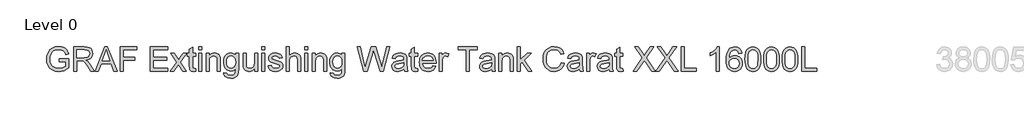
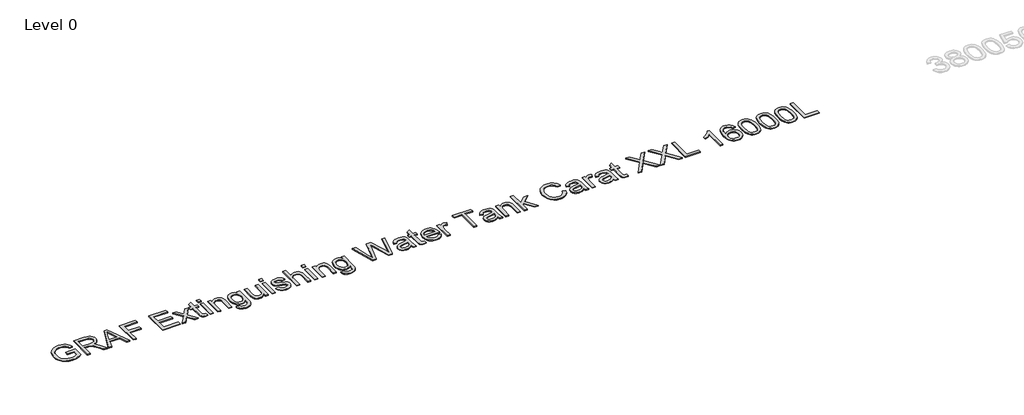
# One storey, part 16 of 37: 1 proxy.
"""IFC4 building model written with IfcOpenShell, lengths in millimetres."""

import ifcopenshell
import ifcopenshell.guid

model = None  # the IFC model being written
_history = None  # IfcOwnerHistory: only IFC2X3 demands one
_inside = {}  # id of a spatial element -> (the spatial element, [elements in it])
_under = {}  # id of a project, library or spatial element -> (it, [spatial elements below it])
_declared = {}  # id of a project -> (the project, [libraries it declares])
_typed = {}  # id of a type object -> (the type object, [elements of that type])
_made_of = {}  # id of a material, layer set ... -> (it, [elements and type objects made of it])


def new_model(schema):
    """Start an empty IFC model of exactly this schema.

    Asked for "IFC4X3", IfcOpenShell would pick the latest addendum, in which some entities
    have other attributes; the version numbers below select the first issue.
    IFC2X3 requires an IfcOwnerHistory on every rooted entity: one is made here for all.
    """
    global model, _history
    if schema == "IFC4X3":
        model = ifcopenshell.file(schema_version=(4, 3, 0, 0))
    else:
        model = ifcopenshell.file(schema=schema)
    _inside.clear()
    _under.clear()
    _declared.clear()
    _typed.clear()
    _made_of.clear()
    _history = None
    if model.schema == "IFC2X3":
        org = make("IfcOrganization", Name="unknown")
        user = make(
            "IfcPersonAndOrganization",
            ThePerson=make("IfcPerson", FamilyName="unknown"),
            TheOrganization=org,
        )
        app = make(
            "IfcApplication",
            ApplicationDeveloper=org,
            Version="unknown",
            ApplicationFullName="unknown",
            ApplicationIdentifier="unknown",
        )
        _history = make(
            "IfcOwnerHistory",
            OwningUser=user,
            OwningApplication=app,
            ChangeAction="ADDED",
            CreationDate=0,
        )
    return model


def make(cls, **values):
    """One entity of the class cls with the attributes given. An attribute that is None is left unset."""
    return model.create_entity(
        cls, **{name: value for name, value in values.items() if value is not None}
    )


def rooted(cls, **values):
    """An entity with a GlobalId (a new one), such as an element, a storey or a relation."""
    return make(cls, GlobalId=ifcopenshell.guid.new(), OwnerHistory=_history, **values)


def si_unit(unit_type, name, prefix=None):
    """IfcSIUnit, for example si_unit("LENGTHUNIT", "METRE", prefix="MILLI")."""
    return make("IfcSIUnit", UnitType=unit_type, Prefix=prefix, Name=name)


def assignment(units):
    """IfcUnitAssignment: the units of a project."""
    return None if units is None else make("IfcUnitAssignment", Units=units)


def point(xyz):
    """IfcCartesianPoint."""
    return None if xyz is None else make("IfcCartesianPoint", Coordinates=xyz)


def direction(xyz):
    """IfcDirection."""
    return None if xyz is None else make("IfcDirection", DirectionRatios=xyz)


def frame(location, z_axis=None, x_axis=None):
    """IfcAxis2Placement3D, a coordinate frame: its origin and axes. An axis left out is left unset."""
    return make(
        "IfcAxis2Placement3D",
        Location=point(location),
        Axis=direction(z_axis),
        RefDirection=direction(x_axis),
    )


def origin():
    """The frame at (0, 0, 0) with its axes left unset."""
    return frame((0.0, 0.0, 0.0))


def origin_with_axes():
    """The frame at (0, 0, 0) with the z axis (0, 0, 1) and the x axis (1, 0, 0) written out."""
    return frame((0.0, 0.0, 0.0), z_axis=(0.0, 0.0, 1.0), x_axis=(1.0, 0.0, 0.0))


def place(relative_to, where):
    """IfcLocalPlacement: puts the frame where relative to a parent placement (None: the world)."""
    return make(
        "IfcLocalPlacement", PlacementRelTo=relative_to, RelativePlacement=where
    )


def context(
    kind, dimensions, precision=None, world=None, true_north=None, identifier=None
):
    """IfcGeometricRepresentationContext, for example the 3D "Model" context."""
    return make(
        "IfcGeometricRepresentationContext",
        ContextIdentifier=identifier,
        ContextType=kind,
        CoordinateSpaceDimension=dimensions,
        Precision=precision,
        WorldCoordinateSystem=world,
        TrueNorth=true_north,
    )


def project(units=None, contexts=None):
    """IfcProject with its units and contexts."""
    return rooted(
        "IfcProject",
        Name="project",
        RepresentationContexts=contexts,
        UnitsInContext=assignment(units),
    )


def spatial(cls, under=None, at=None, **own):
    """A site, building, storey or space (cls), placed at a placement, below another one or the project."""
    s = rooted(cls, ObjectPlacement=at, **own)
    if under is not None:
        _under.setdefault(under.id(), (under, []))[1].append(s)
    return s


def polyline(points):
    """IfcPolyline through the points."""
    return make("IfcPolyline", Points=[point(p) for p in points])


def outline(outer, holes=None, kind="AREA"):
    """IfcArbitraryClosedProfileDef: a profile drawn as a closed curve; with holes, ...WithVoids."""
    if holes is None:
        return make("IfcArbitraryClosedProfileDef", ProfileType=kind, OuterCurve=outer)
    return make(
        "IfcArbitraryProfileDefWithVoids",
        ProfileType=kind,
        OuterCurve=outer,
        InnerCurves=holes,
    )


def extrude(swept, where, along, depth):
    """IfcExtrudedAreaSolid: the profile swept, set in the frame where, extruded along a direction by depth."""
    return make(
        "IfcExtrudedAreaSolid",
        SweptArea=swept,
        Position=where,
        ExtrudedDirection=direction(along),
        Depth=depth,
    )


def shape(context_of_items, identifier, shape_type, items):
    """IfcShapeRepresentation: the items that make up one representation, for example the "Body"."""
    return make(
        "IfcShapeRepresentation",
        ContextOfItems=context_of_items,
        RepresentationIdentifier=identifier,
        RepresentationType=shape_type,
        Items=items,
    )


def made_of(thing, what):
    """Note that an element or type object is made of a material, layer set ...; save() writes the relation."""
    if what is not None:
        _made_of.setdefault(what.id(), (what, []))[1].append(thing)
    return thing


def element(
    cls,
    number,
    at=None,
    inside=None,
    cuts=None,
    type_object=None,
    material=None,
    context=None,
    identifier="Body",
    shape_type=None,
    held_by="IfcProductDefinitionShape",
    body=None,
    shapes=None,
    **own,
):
    """One element of the class cls, such as IfcWall. Its Tag is "e" and its number.

    at: its placement. inside: the storey or other place that contains it. cuts: it is an
    opening in that element (IfcRelVoidsElement). A single representation is given by context,
    identifier, shape_type and body (its items); several are given by shapes. held_by: the class
    of the entity that holds the representations. save() writes the other relations.
    """
    e = rooted(cls, Tag="e%d" % number, ObjectPlacement=at, **own)
    if body is not None:
        shapes = [shape(context, identifier, shape_type, body)]
    if shapes is not None:
        e.Representation = make(held_by, Representations=shapes)
    if inside is not None:
        _inside.setdefault(inside.id(), (inside, []))[1].append(e)
    if cuts is not None:
        rooted(
            "IfcRelVoidsElement", RelatingBuildingElement=cuts, RelatedOpeningElement=e
        )
    if type_object is not None:
        _typed.setdefault(type_object.id(), (type_object, []))[1].append(e)
    return made_of(e, material)


def aggregate(whole, parts):
    """IfcRelAggregates: a whole, such as a stair, and the parts it consists of."""
    return rooted("IfcRelAggregates", RelatingObject=whole, RelatedObjects=parts)


def save(model, path):
    """Write the relations noted so far, then the file.

    IfcRelAggregates (storeys below a building ...), IfcRelContainedInSpatialStructure (elements
    in a storey), IfcRelDefinesByType, IfcRelAssociatesMaterial and IfcRelDeclares: one each for
    every whole, place, type object, material and project.
    """
    for whole, parts in _under.values():
        aggregate(whole, parts)
    for where, things in _inside.values():
        rooted(
            "IfcRelContainedInSpatialStructure",
            RelatedElements=things,
            RelatingStructure=where,
        )
    for kind, things in _typed.values():
        rooted("IfcRelDefinesByType", RelatedObjects=things, RelatingType=kind)
    for what, things in _made_of.values():
        rooted("IfcRelAssociatesMaterial", RelatedObjects=things, RelatingMaterial=what)
    for by, libraries in _declared.values():
        rooted("IfcRelDeclares", RelatingContext=by, RelatedDefinitions=libraries)
    model.write(path)


model = new_model("IFC4")

# Units and contexts
model_context = context("Model", 3, world=origin())
ifc_project = project(units=[si_unit("LENGTHUNIT", "METRE", prefix="MILLI")], contexts=[model_context])

# Site, building, storey
site = spatial("IfcSite", under=ifc_project)
building = spatial("IfcBuilding", under=site)
storey = spatial("IfcBuildingStorey", under=building, Name="Level 0", Elevation=0.0)

# Proxy
placement = place(None, origin())
element("IfcBuildingElementProxy", 1, Name="300mm Arial", ObjectType="300mm Arial", at=placement, inside=storey, context=model_context, shape_type="SweptSolid", body=[
    extrude(outline(polyline([(-17240.9940387, -1583.2545597), (-17240.9940387, -1545.5834434), (-17118.5629107, -1545.5834434), (-17118.5629107, -1658.2289103), (-17148.3153671, -1678.9222726), (-17179.0059225, -1693.7663111), (-17210.5610007, -1702.7058436), (-17242.9070251, -1705.6856877), (-17285.1674693, -1700.949207), (-17323.3628175, -1686.739765), (-17355.0926395, -1663.5540022), (-17377.9565055, -1631.8885595), (-17391.7796715, -1593.9047435), (-17396.3873935, -1551.7638609), (-17391.7980656, -1509.3194757), (-17378.0300819, -1469.8365406), (-17355.6536596, -1436.717964), (-17325.2390156, -1413.3666543), (-17288.1932987, -1399.5158972), (-17245.9236575, -1394.8989782), (-17214.8928112, -1397.5753197), (-17186.9889618, -1405.6043443), (-17163.4904994, -1418.4066377), (-17145.6758138, -1435.4027859), (-17132.4964413, -1457.4113262), (-17122.9039183, -1485.2507962), (-17157.6319786, -1495.0364573), (-17165.3850917, -1475.1800266), (-17174.8120678, -1460.1980323), (-17187.2832674, -1448.9040551), (-17204.169051, -1440.1116754), (-17224.3013932, -1434.4554897), (-17246.5122687, -1432.5700945), (-17272.5123287, -1434.6026425), (-17294.7415982, -1440.7002866), (-17313.1173039, -1450.0996716), (-17327.5566722, -1462.0374423), (-17346.9440533, -1491.0633317), (-17355.7732212, -1519.50061), (-17358.7162772, -1550.2187566), (-17355.175413, -1586.2436009), (-17344.5528204, -1615.8856927), (-17327.1703961, -1638.9334997), (-17303.3500369, -1655.1754898), (-17275.4737787, -1664.804801), (-17245.9236575, -1668.0145714), (-17219.831627, -1665.5957473), (-17194.3833899, -1658.3392749), (-17172.2828791, -1648.3420817), (-17156.234027, -1637.701095), (-17156.234027, -1583.2545597), (-17240.9940387, -1583.2545597)])), origin_with_axes(), (0.0, 0.0, 1.0), 10.0),
    extrude(outline(polyline([(-17057.3473467, -1700.9767982), (-17057.3473467, -1399.6078677), (-16927.4850024, -1399.6078677), (-16892.5821982, -1401.6404158), (-16867.1891434, -1407.7380598), (-16848.6294968, -1418.9952489), (-16834.2269167, -1436.5064318), (-16824.9838815, -1458.2206666), (-16821.9028698, -1482.087011), (-16827.0072325, -1511.7750881), (-16842.3203206, -1536.3863935), (-16853.9200997, -1546.4157764), (-16868.3019865, -1554.4310054), (-16905.4120827, -1564.4190016), (-16884.0013506, -1580.532233), (-16853.467145, -1619.3069952), (-16803.2144645, -1700.9767982), (-16846.9924219, -1700.9767982), (-16886.2086426, -1638.5104354), (-16914.5355562, -1597.1604991), (-16934.4379722, -1577.6259652), (-16952.3538253, -1570.4522663), (-16974.2060158, -1569.1278911), (-17019.6762304, -1569.1278911), (-17019.6762304, -1700.9767982), (-17057.3473467, -1700.9767982)]), holes=[polyline([(-17019.6762304, -1531.4567748), (-16935.3576771, -1531.4567748), (-16911.1418448, -1530.1232026), (-16892.3522719, -1526.1224859), (-16878.2072092, -1519.1879103), (-16867.9249074, -1509.0527613), (-16861.6617165, -1496.7930938), (-16859.5739861, -1483.4849626), (-16863.5563087, -1465.109257), (-16875.5032765, -1450.3020067), (-16896.058683, -1440.5347397), (-16925.8663217, -1437.278984), (-17019.6762304, -1437.278984), (-17019.6762304, -1531.4567748)])]), origin_with_axes(), (0.0, 0.0, 1.0), 10.0),
    extrude(outline(polyline([(-16791.0743586, -1700.9767982), (-16670.7769462, -1399.6078677), (-16638.6976362, -1399.6078677), (-16518.4002238, -1700.9767982), (-16558.2050557, -1700.9767982), (-16592.7123868, -1606.7990074), (-16716.835772, -1606.7990074), (-16751.2695268, -1700.9767982), (-16791.0743586, -1700.9767982)]), holes=[polyline([(-16703.003409, -1569.1278911), (-16606.4711735, -1569.1278911), (-16633.6208647, -1495.0364573), (-16654.7372912, -1437.278984), (-16673.499273, -1488.5617342), (-16703.003409, -1569.1278911)])]), origin_with_axes(), (0.0, 0.0, 1.0), 10.0),
    extrude(outline(polyline([(-16478.1539335, -1700.9767982), (-16478.1539335, -1399.6078677), (-16275.6716834, -1399.6078677), (-16275.6716834, -1437.278984), (-16440.4828172, -1437.278984), (-16440.4828172, -1526.7478853), (-16299.2161311, -1526.7478853), (-16299.2161311, -1564.4190016), (-16440.4828172, -1564.4190016), (-16440.4828172, -1700.9767982), (-16478.1539335, -1700.9767982)])), origin_with_axes(), (0.0, 0.0, 1.0), 10.0),
    extrude(outline(polyline([(-16106.15166, -1700.9767982), (-16106.15166, -1399.6078677), (-15889.5427413, -1399.6078677), (-15889.5427413, -1437.278984), (-16068.4805437, -1437.278984), (-16068.4805437, -1526.7478853), (-15898.9605203, -1526.7478853), (-15898.9605203, -1564.4190016), (-16068.4805437, -1564.4190016), (-16068.4805437, -1663.3056819), (-15884.8338517, -1663.3056819), (-15884.8338517, -1700.9767982), (-16106.15166, -1700.9767982)])), origin_with_axes(), (0.0, 0.0, 1.0), 10.0),
    extrude(outline(polyline([(-15856.5805145, -1700.9767982), (-15776.0879339, -1589.7292828), (-15851.8716249, -1479.6589899), (-15806.5485631, -1479.6589899), (-15769.9810928, -1532.6339972), (-15752.9113682, -1557.6499729), (-15738.122512, -1537.1957339), (-15696.4782702, -1479.6589899), (-15651.1552084, -1479.6589899), (-15730.7648721, -1589.7292828), (-15654.0982643, -1700.9767982), (-15699.4213261, -1700.9767982), (-15745.5537283, -1634.0958515), (-15754.0150142, -1621.8821692), (-15811.2574527, -1700.9767982), (-15856.5805145, -1700.9767982)])), origin_with_axes(), (0.0, 0.0, 1.0), 10.0),
    extrude(outline(polyline([(-15541.0849154, -1669.5596758), (-15536.3760259, -1702.0804442), (-15564.5557867, -1705.6856877), (-15582.6371868, -1704.1221892), (-15596.1200619, -1699.4316938), (-15605.6482056, -1692.2028126), (-15611.8654113, -1683.0241568), (-15615.2867139, -1667.2604133), (-15616.427148, -1640.276269), (-15616.427148, -1517.3301062), (-15644.6804853, -1517.3301062), (-15644.6804853, -1479.6589899), (-15616.427148, -1479.6589899), (-15616.427148, -1425.8746422), (-15578.7560317, -1403.7281461), (-15578.7560317, -1479.6589899), (-15541.0849154, -1479.6589899), (-15541.0849154, -1517.3301062), (-15578.7560317, -1517.3301062), (-15578.7560317, -1639.172623), (-15576.769469, -1658.5967923), (-15570.331534, -1665.4761856), (-15557.4924524, -1668.0145714), (-15541.0849154, -1669.5596758)])), origin_with_axes(), (0.0, 0.0, 1.0), 10.0),
    extrude(outline(polyline([(-15503.4137991, -1437.278984), (-15503.4137991, -1399.6078677), (-15465.7426828, -1399.6078677), (-15465.7426828, -1437.278984), (-15503.4137991, -1437.278984)])), origin_with_axes(), (0.0, 0.0, 1.0), 10.0),
    extrude(outline(polyline([(-15503.4137991, -1700.9767982), (-15503.4137991, -1479.6589899), (-15465.7426828, -1479.6589899), (-15465.7426828, -1700.9767982), (-15503.4137991, -1700.9767982)])), origin_with_axes(), (0.0, 0.0, 1.0), 10.0),
    extrude(outline(polyline([(-15409.2360084, -1700.9767982), (-15409.2360084, -1479.6589899), (-15371.564892, -1479.6589899), (-15371.564892, -1510.5610775), (-15358.4774901, -1494.981275), (-15342.7597318, -1483.8528446), (-15324.4116173, -1477.1757864), (-15303.4331465, -1474.9501003), (-15284.8643028, -1476.7435251), (-15267.8589576, -1482.1237992), (-15253.6771067, -1490.4195382), (-15243.5787459, -1500.9593574), (-15232.2847687, -1528.6608716), (-15230.2982059, -1565.0811892), (-15230.2982059, -1700.9767982), (-15267.9693222, -1700.9767982), (-15267.9693222, -1570.1579607), (-15272.3103297, -1536.8278519), (-15278.3160033, -1526.9042351), (-15287.6510089, -1519.2063044), (-15299.6163708, -1514.2674886), (-15313.5131132, -1512.6212166), (-15335.5768359, -1516.3184307), (-15354.3848029, -1527.4100729), (-15361.9010919, -1536.4645685), (-15367.2698698, -1548.8391991), (-15371.564892, -1583.5488653), (-15371.564892, -1700.9767982), (-15409.2360084, -1700.9767982)])), origin_with_axes(), (0.0, 0.0, 1.0), 10.0),
    extrude(outline(polyline([(-15187.9182001, -1719.8123563), (-15150.2470837, -1724.5212459), (-15146.0900172, -1736.2934697), (-15138.0334015, -1744.3868736), (-15122.1960816, -1750.6776557), (-15101.4659312, -1752.7745831), (-15079.3562233, -1750.4017442), (-15062.9118981, -1743.2832276), (-15051.5075562, -1731.8788858), (-15044.5177983, -1716.6485712), (-15041.9426244, -1672.7234609), (-15054.4782034, -1685.084296), (-15068.4669162, -1693.9134639), (-15083.908763, -1699.2109646), (-15100.8037436, -1700.9767982), (-15121.4580184, -1698.9212575), (-15139.6428852, -1692.7546356), (-15155.3583442, -1682.4769323), (-15168.6043953, -1668.0881478), (-15179.1143241, -1650.8252852), (-15186.621416, -1631.9253477), (-15191.1256712, -1611.3883353), (-15192.6270896, -1589.214248), (-15189.932354, -1558.7996041), (-15181.8481471, -1530.8313754), (-15168.6595776, -1507.1305779), (-15150.6517539, -1489.5182274), (-15128.4408785, -1478.5921321), (-15102.6431536, -1474.9501003), (-15085.0262045, -1477.0102395), (-15069.0371333, -1483.190657), (-15054.6759399, -1493.4913529), (-15041.9426244, -1507.9123271), (-15041.9426244, -1479.6589899), (-15004.2715081, -1479.6589899), (-15004.2715081, -1670.7368982), (-15006.846682, -1714.8551464), (-15014.5722039, -1743.908627), (-15027.8803351, -1763.1764465), (-15047.2033369, -1777.9377116), (-15072.118145, -1787.3187024), (-15102.2016952, -1790.4456994), (-15137.2516523, -1786.0403125), (-15164.851999, -1772.8241518), (-15175.2469646, -1762.9028343), (-15182.55632, -1750.7604292), (-15186.7800651, -1736.3969365), (-15187.9182001, -1719.8123563)]), holes=[polyline([(-15154.9559733, -1586.6390741), (-15150.9368625, -1621.1923905), (-15138.8795301, -1644.9483703), (-15120.7521448, -1658.716354), (-15098.5228752, -1663.3056819), (-15076.4591526, -1658.7439451), (-15058.2397968, -1645.0587349), (-15046.0169175, -1621.6062577), (-15041.9426244, -1587.7427201), (-15046.1364791, -1555.0839959), (-15058.7180433, -1531.5671394), (-15077.2041136, -1517.3576973), (-15099.1114864, -1512.6212166), (-15120.6233861, -1517.2841209), (-15138.6588009, -1531.2728338), (-15150.8816802, -1554.4402024), (-15154.9559733, -1586.6390741)])]), origin_with_axes(), (0.0, 0.0, 1.0), 10.0),
    extrude(outline(polyline([(-14806.4981475, -1700.9767982), (-14806.4981475, -1662.9377999), (-14820.1281754, -1681.6400008), (-14836.0022835, -1694.9987158), (-14854.1204717, -1703.0139447), (-14874.4827402, -1705.6856877), (-14892.8308547, -1703.8094895), (-14909.9097763, -1698.180895), (-14924.23878, -1689.7196091), (-14934.3371408, -1679.3453369), (-14945.5575416, -1651.6070344), (-14947.7648336, -1616.5846685), (-14947.7648336, -1479.6589899), (-14910.0937173, -1479.6589899), (-14910.0937173, -1598.8527563), (-14907.8128489, -1637.2596366), (-14902.3222101, -1650.0711271), (-14892.9136281, -1659.8108029), (-14880.2125022, -1665.9636293), (-14864.8442319, -1668.0145714), (-14848.5930448, -1665.917644), (-14833.3903213, -1659.6268619), (-14820.8547423, -1649.7216392), (-14812.6049886, -1636.78139), (-14808.0248577, -1619.0586749), (-14806.4981475, -1594.8060544), (-14806.4981475, -1479.6589899), (-14768.8270311, -1479.6589899), (-14768.8270311, -1700.9767982), (-14806.4981475, -1700.9767982)])), origin_with_axes(), (0.0, 0.0, 1.0), 10.0),
    extrude(outline(polyline([(-14717.0292462, -1437.278984), (-14717.0292462, -1399.6078677), (-14679.3581299, -1399.6078677), (-14679.3581299, -1437.278984), (-14717.0292462, -1437.278984)])), origin_with_axes(), (0.0, 0.0, 1.0), 10.0),
    extrude(outline(polyline([(-14717.0292462, -1700.9767982), (-14717.0292462, -1479.6589899), (-14679.3581299, -1479.6589899), (-14679.3581299, -1700.9767982), (-14717.0292462, -1700.9767982)])), origin_with_axes(), (0.0, 0.0, 1.0), 10.0),
    extrude(outline(polyline([(-14636.9781241, -1635.0523446), (-14599.3070078, -1630.3434551), (-14593.3657135, -1646.4566865), (-14581.8694012, -1658.3024867), (-14564.7444943, -1665.5865502), (-14541.9174165, -1668.0145714), (-14519.3662502, -1665.7888853), (-14503.5105362, -1659.1118271), (-14494.1295453, -1649.4365307), (-14491.0025484, -1638.2161298), (-14494.1479394, -1628.6144097), (-14503.5841126, -1621.293558), (-14542.3588749, -1610.5514038), (-14599.0862786, -1592.1205158), (-14613.4428734, -1582.8590866), (-14623.8447368, -1570.5994191), (-14630.1631101, -1556.1232626), (-14632.2692345, -1540.2123663), (-14630.5769774, -1525.6166481), (-14625.5002058, -1512.1429701), (-14617.4987724, -1500.324761), (-14607.0325297, -1490.6954497), (-14583.0834118, -1479.5486253), (-14550.673008, -1474.9501003), (-14526.153673, -1476.7987074), (-14504.8349114, -1482.3445284), (-14487.6916104, -1491.0449376), (-14475.6986574, -1502.357309), (-14467.7524063, -1517.118574), (-14462.7492112, -1536.1656643), (-14500.4203275, -1540.8745539), (-14505.1752023, -1529.0195566), (-14514.5837843, -1520.0892211), (-14528.738044, -1514.4882178), (-14547.729952, -1512.6212166), (-14569.3614134, -1514.4054443), (-14583.7823876, -1519.7581274), (-14591.8941856, -1527.4836493), (-14594.5981182, -1536.3863935), (-14590.1099579, -1547.349277), (-14576.0568657, -1555.6634101), (-14543.6096737, -1563.6832376), (-14488.3170098, -1581.4151497), (-14473.7120946, -1589.8948297), (-14462.6388466, -1601.5015067), (-14455.6582857, -1616.2719688), (-14453.3314321, -1634.2430043), (-14456.0629559, -1652.821045), (-14464.2575273, -1670.2954398), (-14477.6024467, -1685.2958281), (-14495.7850143, -1696.4518496), (-14517.7475694, -1703.3772282), (-14542.4324513, -1705.6856877), (-14580.4162673, -1701.2343156), (-14608.1361757, -1687.8801991), (-14626.64064, -1665.7704912), (-14636.9781241, -1635.0523446)])), origin_with_axes(), (0.0, 0.0, 1.0), 10.0),
    extrude(outline(polyline([(-14410.9514262, -1700.9767982), (-14410.9514262, -1399.6078677), (-14373.2803099, -1399.6078677), (-14373.2803099, -1510.4139247), (-14359.4433484, -1494.8985015), (-14343.9049326, -1483.8160564), (-14326.6650626, -1477.1665894), (-14307.7237384, -1474.9501003), (-14284.970237, -1477.3689245), (-14265.4173089, -1484.6253968), (-14250.0214474, -1496.1493003), (-14239.7391457, -1511.3704179), (-14233.9450043, -1532.2845093), (-14232.0136238, -1560.8873344), (-14232.0136238, -1700.9767982), (-14269.6847401, -1700.9767982), (-14269.6847401, -1564.7868836), (-14272.6829784, -1541.2056477), (-14281.6776931, -1525.0556281), (-14296.1722437, -1515.7298195), (-14315.6699895, -1512.6212166), (-14331.5900828, -1514.718144), (-14346.5352889, -1521.0089261), (-14358.914518, -1530.8865577), (-14367.1366806, -1543.7440334), (-14371.7444026, -1560.8321521), (-14373.2803099, -1583.4017125), (-14373.2803099, -1700.9767982), (-14410.9514262, -1700.9767982)])), origin_with_axes(), (0.0, 0.0, 1.0), 10.0),
    extrude(outline(polyline([(-14180.2158389, -1437.278984), (-14180.2158389, -1399.6078677), (-14142.5447226, -1399.6078677), (-14142.5447226, -1437.278984), (-14180.2158389, -1437.278984)])), origin_with_axes(), (0.0, 0.0, 1.0), 10.0),
    extrude(outline(polyline([(-14180.2158389, -1700.9767982), (-14180.2158389, -1479.6589899), (-14142.5447226, -1479.6589899), (-14142.5447226, -1700.9767982), (-14180.2158389, -1700.9767982)])), origin_with_axes(), (0.0, 0.0, 1.0), 10.0),
    extrude(outline(polyline([(-14086.0380481, -1700.9767982), (-14086.0380481, -1479.6589899), (-14048.3669318, -1479.6589899), (-14048.3669318, -1510.5610775), (-14035.2795298, -1494.981275), (-14019.5617716, -1483.8528446), (-14001.2136571, -1477.1757864), (-13980.2351863, -1474.9501003), (-13961.6663426, -1476.7435251), (-13944.6609974, -1482.1237992), (-13930.4791464, -1490.4195382), (-13920.3807857, -1500.9593574), (-13909.0868084, -1528.6608716), (-13907.1002456, -1565.0811892), (-13907.1002456, -1700.9767982), (-13944.771362, -1700.9767982), (-13944.771362, -1570.1579607), (-13949.1123695, -1536.8278519), (-13955.1180431, -1526.9042351), (-13964.4530487, -1519.2063044), (-13976.4184106, -1514.2674886), (-13990.315153, -1512.6212166), (-14012.3788756, -1516.3184307), (-14031.1868426, -1527.4100729), (-14038.7031316, -1536.4645685), (-14044.0719095, -1548.8391991), (-14048.3669318, -1583.5488653), (-14048.3669318, -1700.9767982), (-14086.0380481, -1700.9767982)])), origin_with_axes(), (0.0, 0.0, 1.0), 10.0),
    extrude(outline(polyline([(-13864.7202398, -1719.8123563), (-13827.0491235, -1724.5212459), (-13822.8920569, -1736.2934697), (-13814.8354413, -1744.3868736), (-13798.9981214, -1750.6776557), (-13778.2679709, -1752.7745831), (-13756.158263, -1750.4017442), (-13739.7139378, -1743.2832276), (-13728.309596, -1731.8788858), (-13721.3198381, -1716.6485712), (-13718.7446641, -1672.7234609), (-13731.2802431, -1685.084296), (-13745.268956, -1693.9134639), (-13760.7108027, -1699.2109646), (-13777.6057833, -1700.9767982), (-13798.2600581, -1698.9212575), (-13816.444925, -1692.7546356), (-13832.160384, -1682.4769323), (-13845.4064351, -1668.0881478), (-13855.9163638, -1650.8252852), (-13863.4234558, -1631.9253477), (-13867.9277109, -1611.3883353), (-13869.4291293, -1589.214248), (-13866.7343937, -1558.7996041), (-13858.6501869, -1530.8313754), (-13845.4616174, -1507.1305779), (-13827.4537937, -1489.5182274), (-13805.2429182, -1478.5921321), (-13779.4451933, -1474.9501003), (-13761.8282443, -1477.0102395), (-13745.8391731, -1483.190657), (-13731.4779797, -1493.4913529), (-13718.7446641, -1507.9123271), (-13718.7446641, -1479.6589899), (-13681.0735478, -1479.6589899), (-13681.0735478, -1670.7368982), (-13683.6487218, -1714.8551464), (-13691.3742437, -1743.908627), (-13704.6823748, -1763.1764465), (-13724.0053766, -1777.9377116), (-13748.9201848, -1787.3187024), (-13779.0037349, -1790.4456994), (-13814.053692, -1786.0403125), (-13841.6540387, -1772.8241518), (-13852.0490043, -1762.9028343), (-13859.3583597, -1750.7604292), (-13863.5821049, -1736.3969365), (-13864.7202398, -1719.8123563)]), holes=[polyline([(-13831.758013, -1586.6390741), (-13827.7389022, -1621.1923905), (-13815.6815698, -1644.9483703), (-13797.5541845, -1658.716354), (-13775.324915, -1663.3056819), (-13753.2611923, -1658.7439451), (-13735.0418365, -1645.0587349), (-13722.8189572, -1621.6062577), (-13718.7446641, -1587.7427201), (-13722.9385189, -1555.0839959), (-13735.5200831, -1531.5671394), (-13754.0061534, -1517.3576973), (-13775.9135262, -1512.6212166), (-13797.4254258, -1517.2841209), (-13815.4608406, -1531.2728338), (-13827.6837199, -1554.4402024), (-13831.758013, -1586.6390741)])]), origin_with_axes(), (0.0, 0.0, 1.0), 10.0),
    extrude(outline(polyline([(-13448.2042449, -1700.9767982), (-13530.3890826, -1399.6078677), (-13491.5407439, -1399.6078677), (-13443.8632373, -1597.6755339), (-13429.1479575, -1658.8175215), (-13413.4026081, -1604.7388682), (-13353.6585721, -1399.6078677), (-13297.6669324, -1399.6078677), (-13254.256857, -1548.3057702), (-13235.6604221, -1603.4880695), (-13221.9568178, -1658.8175215), (-13207.6829964, -1599.4413675), (-13159.5640314, -1399.6078677), (-13120.7156928, -1399.6078677), (-13202.9741069, -1700.9767982), (-13243.2203971, -1700.9767982), (-13315.472421, -1468.4753772), (-13325.5523877, -1436.0281853), (-13336.8831531, -1475.0972531), (-13402.7340303, -1700.9767982), (-13448.2042449, -1700.9767982)])), origin_with_axes(), (0.0, 0.0, 1.0), 10.0),
    extrude(outline(polyline([(-12946.4867798, -1672.7234609), (-12964.4854065, -1688.1561106), (-12983.017462, -1698.2544714), (-13002.5060107, -1703.8278836), (-13023.3741168, -1705.6856877), (-13054.8556186, -1701.2159215), (-13078.0781695, -1687.8066228), (-13092.3979762, -1667.4443543), (-13097.1712451, -1642.1156789), (-13095.3686233, -1626.4990883), (-13089.960758, -1612.3172373), (-13081.6190337, -1600.1771315), (-13071.0148352, -1590.685776), (-13044.6376962, -1578.324941), (-13012.0433514, -1572.6595583), (-12973.5261065, -1566.6998699), (-12946.707509, -1559.710112), (-12946.4867798, -1551.3224025), (-12949.0803479, -1534.5101954), (-12956.8610521, -1523.5105237), (-12974.2618705, -1515.3435434), (-12998.505294, -1512.6212166), (-13020.9460957, -1514.4330355), (-13036.6178687, -1519.868492), (-13047.3048406, -1529.9208675), (-13054.7912392, -1545.5834434), (-13092.4623555, -1540.8745539), (-13085.9232531, -1520.2731621), (-13076.1651831, -1504.0863544), (-13062.2776378, -1491.7071252), (-13043.3501092, -1482.5284694), (-13020.2011346, -1476.8446926), (-12993.6492516, -1474.9501003), (-12968.1826205, -1476.6239634), (-12947.995096, -1481.6455527), (-12932.7739785, -1489.1963306), (-12922.2065682, -1498.4577598), (-12915.1984162, -1509.9080869), (-12910.6550735, -1524.0255585), (-12908.8156635, -1556.9877853), (-12908.8156635, -1603.8559515), (-12906.9026772, -1669.3021584), (-12899.3978845, -1700.9767982), (-12937.0690008, -1700.9767982), (-12946.4867798, -1672.7234609)]), holes=[polyline([(-12946.4867798, -1597.3812283), (-13007.2608854, -1608.932723), (-13039.6712892, -1615.0395641), (-13054.3497808, -1624.972378), (-13059.5001288, -1639.4669286), (-13056.6950285, -1650.6689353), (-13048.2797279, -1659.8475911), (-13034.4381678, -1665.9728263), (-13015.3542893, -1668.0145714), (-12995.1207796, -1665.7612942), (-12977.2417146, -1659.0014625), (-12962.747164, -1649.0410575), (-12952.6671974, -1637.1860602), (-12948.1974311, -1624.972378), (-12946.707509, -1608.0498062), (-12946.4867798, -1597.3812283)])]), origin_with_axes(), (0.0, 0.0, 1.0), 10.0),
    extrude(outline(polyline([(-12776.9667565, -1669.5596758), (-12772.2578669, -1702.0804442), (-12800.4376278, -1705.6856877), (-12818.5190278, -1704.1221892), (-12832.0019029, -1699.4316938), (-12841.5300466, -1692.2028126), (-12847.7472523, -1683.0241568), (-12851.1685549, -1667.2604133), (-12852.3089891, -1640.276269), (-12852.3089891, -1517.3301062), (-12880.5623263, -1517.3301062), (-12880.5623263, -1479.6589899), (-12852.3089891, -1479.6589899), (-12852.3089891, -1425.8746422), (-12814.6378728, -1403.7281461), (-12814.6378728, -1479.6589899), (-12776.9667565, -1479.6589899), (-12776.9667565, -1517.3301062), (-12814.6378728, -1517.3301062), (-12814.6378728, -1639.172623), (-12812.65131, -1658.5967923), (-12806.2133751, -1665.4761856), (-12793.3742934, -1668.0145714), (-12776.9667565, -1669.5596758)])), origin_with_axes(), (0.0, 0.0, 1.0), 10.0),
    extrude(outline(polyline([(-12584.3437438, -1635.0523446), (-12547.4083915, -1639.7612342), (-12560.7165226, -1667.5915071), (-12581.9525108, -1688.3952339), (-12610.6381094, -1701.3630743), (-12646.2950718, -1705.6856877), (-12669.669374, -1703.8209859), (-12690.4960935, -1698.2268803), (-12708.7752301, -1688.9033709), (-12724.506784, -1675.8504579), (-12737.1573261, -1659.4314246), (-12746.1934276, -1640.0095545), (-12751.6150885, -1617.5848477), (-12753.4223088, -1592.157304), (-12751.5966944, -1565.8675369), (-12746.1198512, -1542.6955698), (-12736.9917792, -1522.6414025), (-12724.2124784, -1505.7050351), (-12708.5223113, -1492.2497512), (-12690.6616404, -1482.638834), (-12670.6304658, -1476.8722838), (-12648.4287873, -1474.9501003), (-12626.9421796, -1476.8676852), (-12607.5111124, -1482.6204399), (-12590.1355859, -1492.2083644), (-12574.8156001, -1505.6314587), (-12562.3099115, -1522.5310379), (-12553.3772768, -1542.548417), (-12548.017696, -1565.6835959), (-12546.2311691, -1591.9365748), (-12546.4518983, -1602.0901179), (-12715.7511925, -1602.0901179), (-12709.2304841, -1630.2882728), (-12694.0829429, -1651.0184232), (-12672.2215554, -1663.7655344), (-12645.5593078, -1668.0145714), (-12625.509739, -1666.0464027), (-12608.6239555, -1660.1418967), (-12594.901957, -1649.9331713), (-12584.3437438, -1635.0523446)]), holes=[polyline([(-12715.7511925, -1564.4190016), (-12583.9022854, -1564.4190016), (-12588.997451, -1544.5165856), (-12598.9854472, -1530.2795524), (-12620.9480023, -1517.0358006), (-12648.5759401, -1512.6212166), (-12673.9689949, -1516.1436868), (-12694.9658597, -1526.7110971), (-12709.5615779, -1543.1830134), (-12715.7511925, -1564.4190016)])]), origin_with_axes(), (0.0, 0.0, 1.0), 10.0),
    extrude(outline(polyline([(-12508.5600528, -1700.9767982), (-12508.5600528, -1479.6589899), (-12475.597826, -1479.6589899), (-12475.597826, -1512.4004875), (-12463.420932, -1493.4177765), (-12452.2005311, -1482.2341638), (-12440.9433421, -1476.7711162), (-12428.6560834, -1474.9501003), (-12409.8941017, -1477.8563681), (-12390.8378143, -1486.5751714), (-12403.4193786, -1520.3467385), (-12416.6631304, -1514.5525971), (-12429.9068822, -1512.6212166), (-12441.1548742, -1514.4790207), (-12451.2072497, -1520.052433), (-12459.3282448, -1528.918389), (-12464.7820954, -1540.6538247), (-12469.3622262, -1561.6966748), (-12470.8889365, -1584.6525113), (-12470.8889365, -1700.9767982), (-12508.5600528, -1700.9767982)])), origin_with_axes(), (0.0, 0.0, 1.0), 10.0),
    extrude(outline(polyline([(-12169.520006, -1700.9767982), (-12169.520006, -1437.278984), (-12268.4066863, -1437.278984), (-12268.4066863, -1399.6078677), (-12032.9622094, -1399.6078677), (-12032.9622094, -1437.278984), (-12131.8488897, -1437.278984), (-12131.8488897, -1700.9767982), (-12169.520006, -1700.9767982)])), origin_with_axes(), (0.0, 0.0, 1.0), 10.0),
    extrude(outline(polyline([(-11854.024407, -1672.7234609), (-11872.0230336, -1688.1561106), (-11890.5550891, -1698.2544714), (-11910.0436378, -1703.8278836), (-11930.911744, -1705.6856877), (-11962.3932457, -1701.2159215), (-11985.6157966, -1687.8066228), (-11999.9356033, -1667.4443543), (-12004.7088722, -1642.1156789), (-12002.9062504, -1626.4990883), (-11997.4983851, -1612.3172373), (-11989.1566608, -1600.1771315), (-11978.5524623, -1590.685776), (-11952.1753233, -1578.324941), (-11919.5809785, -1572.6595583), (-11881.0637336, -1566.6998699), (-11854.2451362, -1559.710112), (-11854.024407, -1551.3224025), (-11856.617975, -1534.5101954), (-11864.3986792, -1523.5105237), (-11881.7994976, -1515.3435434), (-11906.0429211, -1512.6212166), (-11928.4837228, -1514.4330355), (-11944.1554958, -1519.868492), (-11954.8424677, -1529.9208675), (-11962.3288663, -1545.5834434), (-11999.9999826, -1540.8745539), (-11993.4608802, -1520.2731621), (-11983.7028103, -1504.0863544), (-11969.8152649, -1491.7071252), (-11950.8877363, -1482.5284694), (-11927.7387617, -1476.8446926), (-11901.1868787, -1474.9501003), (-11875.7202476, -1476.6239634), (-11855.5327231, -1481.6455527), (-11840.3116056, -1489.1963306), (-11829.7441953, -1498.4577598), (-11822.7360433, -1509.9080869), (-11818.1927006, -1524.0255585), (-11816.3532907, -1556.9877853), (-11816.3532907, -1603.8559515), (-11814.4403043, -1669.3021584), (-11806.9355116, -1700.9767982), (-11844.6066279, -1700.9767982), (-11854.024407, -1672.7234609)]), holes=[polyline([(-11854.024407, -1597.3812283), (-11914.7985126, -1608.932723), (-11947.2089163, -1615.0395641), (-11961.8874079, -1624.972378), (-11967.0377559, -1639.4669286), (-11964.2326557, -1650.6689353), (-11955.817355, -1659.8475911), (-11941.975795, -1665.9728263), (-11922.8919165, -1668.0145714), (-11902.6584067, -1665.7612942), (-11884.7793418, -1659.0014625), (-11870.2847911, -1649.0410575), (-11860.2048245, -1637.1860602), (-11855.7350582, -1624.972378), (-11854.2451362, -1608.0498062), (-11854.024407, -1597.3812283)])]), origin_with_axes(), (0.0, 0.0, 1.0), 10.0),
    extrude(outline(polyline([(-11764.5555057, -1700.9767982), (-11764.5555057, -1479.6589899), (-11726.8843894, -1479.6589899), (-11726.8843894, -1510.5610775), (-11713.7969875, -1494.981275), (-11698.0792292, -1483.8528446), (-11679.7311147, -1477.1757864), (-11658.7526439, -1474.9501003), (-11640.1838002, -1476.7435251), (-11623.178455, -1482.1237992), (-11608.9966041, -1490.4195382), (-11598.8982433, -1500.9593574), (-11587.6042661, -1528.6608716), (-11585.6177033, -1565.0811892), (-11585.6177033, -1700.9767982), (-11623.2888196, -1700.9767982), (-11623.2888196, -1570.1579607), (-11627.6298271, -1536.8278519), (-11633.6355007, -1526.9042351), (-11642.9705063, -1519.2063044), (-11654.9358682, -1514.2674886), (-11668.8326106, -1512.6212166), (-11690.8963333, -1516.3184307), (-11709.7043003, -1527.4100729), (-11717.2205893, -1536.4645685), (-11722.5893671, -1548.8391991), (-11726.8843894, -1583.5488653), (-11726.8843894, -1700.9767982), (-11764.5555057, -1700.9767982)])), origin_with_axes(), (0.0, 0.0, 1.0), 10.0),
    extrude(outline(polyline([(-11533.8199184, -1700.9767982), (-11533.8199184, -1399.6078677), (-11496.1488021, -1399.6078677), (-11496.1488021, -1561.549522), (-11411.683096, -1479.6589899), (-11359.5910054, -1479.6589899), (-11445.0867811, -1562.5795916), (-11354.8821159, -1700.9767982), (-11398.8808025, -1700.9767982), (-11472.0893196, -1588.7727896), (-11496.1488021, -1612.0965081), (-11496.1488021, -1700.9767982), (-11533.8199184, -1700.9767982)])), origin_with_axes(), (0.0, 0.0, 1.0), 10.0),
    extrude(outline(polyline([(-10987.5887319, -1593.8495612), (-10949.9176156, -1603.5616459), (-10957.3718245, -1626.9888312), (-10967.3000399, -1647.4591649), (-10979.7022617, -1664.9726472), (-10994.5784898, -1679.5292779), (-11011.5930321, -1690.9727072), (-11030.4101962, -1699.1465853), (-11051.029982, -1704.0509121), (-11073.4523896, -1705.6856877), (-11117.1475736, -1700.7376749), (-11151.8480428, -1685.8936364), (-11178.445911, -1661.668607), (-11197.8332922, -1628.5776215), (-11209.6698954, -1589.6741005), (-11213.6154298, -1548.0114646), (-11209.1548606, -1504.0679603), (-11195.773153, -1466.1209325), (-11174.1692828, -1435.3751947), (-11145.0422259, -1413.0355606), (-11110.4981065, -1399.4331238), (-11072.6430492, -1394.8989782), (-11031.3390982, -1400.766696), (-11013.370362, -1408.1013433), (-10997.190452, -1418.3698495), (-10983.0660826, -1431.3009016), (-10971.2639684, -1446.6231867), (-10954.6265052, -1484.4414558), (-10992.2976215, -1493.4177765), (-11005.3574323, -1465.9461885), (-11023.1997091, -1447.1014333), (-11046.045181, -1436.2029292), (-11074.1145772, -1432.5700945), (-11106.4697987, -1436.5984023), (-11133.0492728, -1448.6833259), (-11153.2184032, -1467.5556722), (-11166.3425934, -1491.9462485), (-11173.5438834, -1519.5190041), (-11175.9443135, -1547.9378882), (-11173.102425, -1582.7395249), (-11164.5767598, -1612.8322721), (-11150.045421, -1637.0664986), (-11129.1865119, -1654.292573), (-11104.1797332, -1664.5840718), (-11077.2047859, -1668.0145714), (-11045.7600724, -1663.3424701), (-11019.5576773, -1649.3261661), (-10999.774823, -1626.1128122), (-10987.5887319, -1593.8495612)])), origin_with_axes(), (0.0, 0.0, 1.0), 10.0),
    extrude(outline(polyline([(-10761.5620341, -1672.7234609), (-10779.5606607, -1688.1561106), (-10798.0927162, -1698.2544714), (-10817.5812649, -1703.8278836), (-10838.4493711, -1705.6856877), (-10869.9308728, -1701.2159215), (-10893.1534238, -1687.8066228), (-10907.4732304, -1667.4443543), (-10912.2464993, -1642.1156789), (-10910.4438775, -1626.4990883), (-10905.0360122, -1612.3172373), (-10896.694288, -1600.1771315), (-10886.0900895, -1590.685776), (-10859.7129504, -1578.324941), (-10827.1186056, -1572.6595583), (-10788.6013607, -1566.6998699), (-10761.7827633, -1559.710112), (-10761.5620341, -1551.3224025), (-10764.1556022, -1534.5101954), (-10771.9363064, -1523.5105237), (-10789.3371247, -1515.3435434), (-10813.5805482, -1512.6212166), (-10836.0213499, -1514.4330355), (-10851.6931229, -1519.868492), (-10862.3800949, -1529.9208675), (-10869.8664935, -1545.5834434), (-10907.5376098, -1540.8745539), (-10900.9985073, -1520.2731621), (-10891.2404374, -1504.0863544), (-10877.3528921, -1491.7071252), (-10858.4253634, -1482.5284694), (-10835.2763889, -1476.8446926), (-10808.7245059, -1474.9501003), (-10783.2578748, -1476.6239634), (-10763.0703503, -1481.6455527), (-10747.8492327, -1489.1963306), (-10737.2818224, -1498.4577598), (-10730.2736704, -1509.9080869), (-10725.7303278, -1524.0255585), (-10723.8909178, -1556.9877853), (-10723.8909178, -1603.8559515), (-10721.9779314, -1669.3021584), (-10714.4731387, -1700.9767982), (-10752.144255, -1700.9767982), (-10761.5620341, -1672.7234609)]), holes=[polyline([(-10761.5620341, -1597.3812283), (-10822.3361397, -1608.932723), (-10854.7465435, -1615.0395641), (-10869.4250351, -1624.972378), (-10874.575383, -1639.4669286), (-10871.7702828, -1650.6689353), (-10863.3549822, -1659.8475911), (-10849.5134221, -1665.9728263), (-10830.4295436, -1668.0145714), (-10810.1960338, -1665.7612942), (-10792.3169689, -1659.0014625), (-10777.8224183, -1649.0410575), (-10767.7424516, -1637.1860602), (-10763.2726854, -1624.972378), (-10761.7827633, -1608.0498062), (-10761.5620341, -1597.3812283)])]), origin_with_axes(), (0.0, 0.0, 1.0), 10.0),
    extrude(outline(polyline([(-10672.0931329, -1700.9767982), (-10672.0931329, -1479.6589899), (-10639.1309061, -1479.6589899), (-10639.1309061, -1512.4004875), (-10626.9540121, -1493.4177765), (-10615.7336112, -1482.2341638), (-10604.4764221, -1476.7711162), (-10592.1891635, -1474.9501003), (-10573.4271818, -1477.8563681), (-10554.3708944, -1486.5751714), (-10566.9524586, -1520.3467385), (-10580.1962105, -1514.5525971), (-10593.4399623, -1512.6212166), (-10604.6879543, -1514.4790207), (-10614.7403298, -1520.052433), (-10622.8613249, -1528.918389), (-10628.3151754, -1540.6538247), (-10632.8953063, -1561.6966748), (-10634.4220166, -1584.6525113), (-10634.4220166, -1700.9767982), (-10672.0931329, -1700.9767982)])), origin_with_axes(), (0.0, 0.0, 1.0), 10.0),
    extrude(outline(polyline([(-10389.5597606, -1672.7234609), (-10407.5583872, -1688.1561106), (-10426.0904427, -1698.2544714), (-10445.5789914, -1703.8278836), (-10466.4470976, -1705.6856877), (-10497.9285993, -1701.2159215), (-10521.1511502, -1687.8066228), (-10535.4709569, -1667.4443543), (-10540.2442258, -1642.1156789), (-10538.441604, -1626.4990883), (-10533.0337387, -1612.3172373), (-10524.6920144, -1600.1771315), (-10514.0878159, -1590.685776), (-10487.7106769, -1578.324941), (-10455.1163321, -1572.6595583), (-10416.5990872, -1566.6998699), (-10389.7804898, -1559.710112), (-10389.5597606, -1551.3224025), (-10392.1533286, -1534.5101954), (-10399.9340328, -1523.5105237), (-10417.3348512, -1515.3435434), (-10441.5782747, -1512.6212166), (-10464.0190764, -1514.4330355), (-10479.6908494, -1519.868492), (-10490.3778213, -1529.9208675), (-10497.8642199, -1545.5834434), (-10535.5353362, -1540.8745539), (-10528.9962338, -1520.2731621), (-10519.2381639, -1504.0863544), (-10505.3506185, -1491.7071252), (-10486.4230899, -1482.5284694), (-10463.2741153, -1476.8446926), (-10436.7222323, -1474.9501003), (-10411.2556012, -1476.6239634), (-10391.0680767, -1481.6455527), (-10375.8469592, -1489.1963306), (-10365.2795489, -1498.4577598), (-10358.2713969, -1509.9080869), (-10353.7280542, -1524.0255585), (-10351.8886443, -1556.9877853), (-10351.8886443, -1603.8559515), (-10349.9756579, -1669.3021584), (-10342.4708652, -1700.9767982), (-10380.1419815, -1700.9767982), (-10389.5597606, -1672.7234609)]), holes=[polyline([(-10389.5597606, -1597.3812283), (-10450.3338662, -1608.932723), (-10482.7442699, -1615.0395641), (-10497.4227615, -1624.972378), (-10502.5731095, -1639.4669286), (-10499.7680093, -1650.6689353), (-10491.3527086, -1659.8475911), (-10477.5111486, -1665.9728263), (-10458.4272701, -1668.0145714), (-10438.1937603, -1665.7612942), (-10420.3146954, -1659.0014625), (-10405.8201448, -1649.0410575), (-10395.7401781, -1637.1860602), (-10391.2704118, -1624.972378), (-10389.7804898, -1608.0498062), (-10389.5597606, -1597.3812283)])]), origin_with_axes(), (0.0, 0.0, 1.0), 10.0),
    extrude(outline(polyline([(-10220.0397372, -1669.5596758), (-10215.3308476, -1702.0804442), (-10243.5106085, -1705.6856877), (-10261.5920085, -1704.1221892), (-10275.0748837, -1699.4316938), (-10284.6030273, -1692.2028126), (-10290.8202331, -1683.0241568), (-10294.2415356, -1667.2604133), (-10295.3819698, -1640.276269), (-10295.3819698, -1517.3301062), (-10323.635307, -1517.3301062), (-10323.635307, -1479.6589899), (-10295.3819698, -1479.6589899), (-10295.3819698, -1425.8746422), (-10257.7108535, -1403.7281461), (-10257.7108535, -1479.6589899), (-10220.0397372, -1479.6589899), (-10220.0397372, -1517.3301062), (-10257.7108535, -1517.3301062), (-10257.7108535, -1639.172623), (-10255.7242907, -1658.5967923), (-10249.2863558, -1665.4761856), (-10236.4472742, -1668.0145714), (-10220.0397372, -1669.5596758)])), origin_with_axes(), (0.0, 0.0, 1.0), 10.0),
    extrude(outline(polyline([(-10092.8997197, -1700.9767982), (-9976.7225856, -1536.7542755), (-10074.0641615, -1399.6078677), (-10028.8882525, -1399.6078677), (-9974.0738352, -1476.7895103), (-9955.6061591, -1506.8822575), (-9933.9746977, -1476.2744755), (-9879.7488916, -1399.6078677), (-9833.910795, -1399.6078677), (-9931.252371, -1537.1957339), (-9815.0752369, -1700.9767982), (-9860.2511459, -1700.9767982), (-9937.6535177, -1591.789422), (-9953.7667491, -1569.1278911), (-9971.4986612, -1593.996714), (-10047.0616231, -1700.9767982), (-10092.8997197, -1700.9767982)])), origin_with_axes(), (0.0, 0.0, 1.0), 10.0),
    extrude(outline(polyline([(-9810.3663474, -1700.9767982), (-9694.1892133, -1536.7542755), (-9791.5307892, -1399.6078677), (-9746.3548802, -1399.6078677), (-9691.5404629, -1476.7895103), (-9673.0727868, -1506.8822575), (-9651.4413254, -1476.2744755), (-9597.2155194, -1399.6078677), (-9551.3774228, -1399.6078677), (-9648.7189987, -1537.1957339), (-9532.5418646, -1700.9767982), (-9577.7177736, -1700.9767982), (-9655.1201454, -1591.789422), (-9671.2333768, -1569.1278911), (-9688.9652889, -1593.996714), (-9764.5282508, -1700.9767982), (-9810.3663474, -1700.9767982)])), origin_with_axes(), (0.0, 0.0, 1.0), 10.0),
    extrude(outline(polyline([(-9494.8707483, -1700.9767982), (-9494.8707483, -1399.6078677), (-9457.199632, -1399.6078677), (-9457.199632, -1663.3056819), (-9306.5151668, -1663.3056819), (-9306.5151668, -1700.9767982), (-9494.8707483, -1700.9767982)])), origin_with_axes(), (0.0, 0.0, 1.0), 10.0),
    extrude(outline(polyline([(-9019.2729049, -1700.9767982), (-9056.9440212, -1700.9767982), (-9056.9440212, -1466.1209325), (-9092.6285748, -1491.5415783), (-9132.2862538, -1510.5610775), (-9132.2862538, -1474.9501003), (-9102.6993444, -1458.8552631), (-9077.0671664, -1439.7070052), (-9056.8612478, -1419.3447368), (-9043.5531166, -1399.6078677), (-9019.2729049, -1399.6078677), (-9019.2729049, -1700.9767982)])), origin_with_axes(), (0.0, 0.0, 1.0), 10.0),
    extrude(outline(polyline([(-8736.7395326, -1479.6589899), (-8774.4106489, -1484.3678794), (-8780.4807019, -1465.6978682), (-8788.6844704, -1452.950757), (-8805.772589, -1441.1969273), (-8826.4291631, -1437.278984), (-8843.940346, -1439.5598524), (-8860.4214594, -1446.4024575), (-8874.5757192, -1460.8142347), (-8886.1364109, -1480.6522713), (-8893.9447062, -1508.7124704), (-8896.8417769, -1547.7907354), (-8881.731024, -1530.1599908), (-8863.6220328, -1517.7347764), (-8843.5264788, -1510.3679394), (-8822.4560375, -1507.9123271), (-8804.3562433, -1509.5907887), (-8787.6544008, -1514.6261735), (-8772.3505098, -1523.0184815), (-8758.4445703, -1534.7677128), (-8746.8884772, -1549.1748914), (-8738.6341249, -1565.5410417), (-8733.6815135, -1583.8661635), (-8732.0306431, -1604.150257), (-8735.139246, -1631.1252043), (-8744.4650545, -1656.131983), (-8759.2355166, -1677.34038), (-8778.6780801, -1692.9201825), (-8801.9098281, -1702.4943114), (-8828.0478438, -1705.6856877), (-8850.5047404, -1703.5703662), (-8870.7865346, -1697.2244018), (-8888.8932266, -1686.6477945), (-8904.8248162, -1671.8405442), (-8917.8133499, -1652.1772515), (-8927.090874, -1627.0325171), (-8932.6573884, -1596.406341), (-8934.5128932, -1560.2987232), (-8932.4527541, -1519.8179082), (-8926.2723365, -1485.2691903), (-8915.9716407, -1456.6525696), (-8901.5506665, -1433.9680461), (-8885.9202802, -1418.9354681), (-8867.7974934, -1408.1979123), (-8847.1823061, -1401.7553789), (-8824.0747183, -1399.6078677), (-8791.020521, -1404.9237626), (-8764.5514115, -1420.8714471), (-8746.0101589, -1446.2001224), (-8736.7395326, -1479.6589899)]), holes=[polyline([(-8896.8417769, -1603.5616459), (-8894.6620761, -1620.2542914), (-8888.1229736, -1636.1927788), (-8877.9694306, -1649.8963831), (-8864.946408, -1659.8843793), (-8849.2286497, -1665.9820234), (-8830.9908998, -1668.0145714), (-8806.131274, -1663.8023226), (-8786.587543, -1651.165576), (-8773.9232053, -1631.2999483), (-8769.7017594, -1605.4010558), (-8773.868023, -1580.54143), (-8786.3668138, -1561.5863102), (-8806.2416386, -1549.5841601), (-8832.5360042, -1545.5834434), (-8857.3588418, -1549.5841601), (-8878.1165834, -1561.5863102), (-8892.1604785, -1580.0815775), (-8896.8417769, -1603.5616459)])]), origin_with_axes(), (0.0, 0.0, 1.0), 10.0),
    extrude(outline(polyline([(-8699.0684163, -1552.7203541), (-8696.3001043, -1504.4818275), (-8687.9951683, -1466.0105679), (-8674.2363817, -1436.717964), (-8655.1065179, -1416.0154047), (-8630.4676213, -1403.709752), (-8600.181736, -1399.6078677), (-8576.9683821, -1402.0358889), (-8556.1830494, -1409.3199524), (-8538.8006251, -1421.1749497), (-8525.7959966, -1437.3157722), (-8515.9735473, -1457.6044643), (-8508.1376608, -1481.9030701), (-8503.005707, -1512.7591724), (-8501.2950557, -1552.7203541), (-8504.0357766, -1600.6829692), (-8512.2579392, -1639.0622584), (-8525.9339523, -1668.3824534), (-8545.0362249, -1689.1677861), (-8569.7303039, -1701.5562123), (-8600.181736, -1705.6856877), (-8620.9302806, -1703.892263), (-8639.3243803, -1698.5119888), (-8655.3640353, -1689.5448652), (-8669.0492455, -1676.9908921), (-8682.1826327, -1654.2971715), (-8691.5636236, -1626.0208417), (-8697.1922182, -1592.1619025), (-8699.0684163, -1552.7203541)]), holes=[polyline([(-8661.3973, -1552.6467777), (-8656.9827161, -1611.9033701), (-8651.4644862, -1632.1713688), (-8643.7389643, -1646.1991691), (-8624.0204893, -1662.5607208), (-8600.181736, -1668.0145714), (-8576.3429827, -1662.5423267), (-8556.6245078, -1646.1255927), (-8548.8989859, -1632.0747997), (-8543.380756, -1611.8113996), (-8538.966172, -1552.6467777), (-8543.2336032, -1494.7237576), (-8548.5678921, -1474.5224375), (-8556.0358966, -1460.1612441), (-8575.7175833, -1442.9995491), (-8600.6231944, -1437.278984), (-8624.2044303, -1442.3189674), (-8643.1503531, -1457.4389174), (-8651.1333924, -1473.0739022), (-8656.8355633, -1494.1535405), (-8661.3973, -1552.6467777)])]), origin_with_axes(), (0.0, 0.0, 1.0), 10.0),
    extrude(outline(polyline([(-8468.332829, -1552.7203541), (-8465.5645169, -1504.4818275), (-8457.2595809, -1466.0105679), (-8443.5007943, -1436.717964), (-8424.3709305, -1416.0154047), (-8399.7320339, -1403.709752), (-8369.4461486, -1399.6078677), (-8346.2327948, -1402.0358889), (-8325.447462, -1409.3199524), (-8308.0650378, -1421.1749497), (-8295.0604092, -1437.3157722), (-8285.23796, -1457.6044643), (-8277.4020735, -1481.9030701), (-8272.2701196, -1512.7591724), (-8270.5594683, -1552.7203541), (-8273.3001892, -1600.6829692), (-8281.5223518, -1639.0622584), (-8295.198365, -1668.3824534), (-8314.3006376, -1689.1677861), (-8338.9947165, -1701.5562123), (-8369.4461486, -1705.6856877), (-8390.1946932, -1703.892263), (-8408.5887929, -1698.5119888), (-8424.6284479, -1689.5448652), (-8438.3136581, -1676.9908921), (-8451.4470454, -1654.2971715), (-8460.8280363, -1626.0208417), (-8466.4566308, -1592.1619025), (-8468.332829, -1552.7203541)]), holes=[polyline([(-8430.6617126, -1552.6467777), (-8426.2471287, -1611.9033701), (-8420.7288988, -1632.1713688), (-8413.0033769, -1646.1991691), (-8393.2849019, -1662.5607208), (-8369.4461486, -1668.0145714), (-8345.6073954, -1662.5423267), (-8325.8889204, -1646.1255927), (-8318.1633985, -1632.0747997), (-8312.6451686, -1611.8113996), (-8308.2305847, -1552.6467777), (-8312.4980158, -1494.7237576), (-8317.8323047, -1474.5224375), (-8325.3003092, -1460.1612441), (-8344.981996, -1442.9995491), (-8369.887607, -1437.278984), (-8393.4688429, -1442.3189674), (-8412.4147657, -1457.4389174), (-8420.397805, -1473.0739022), (-8426.0999759, -1494.1535405), (-8430.6617126, -1552.6467777)])]), origin_with_axes(), (0.0, 0.0, 1.0), 10.0),
    extrude(outline(polyline([(-8237.5972416, -1552.7203541), (-8234.8289296, -1504.4818275), (-8226.5239935, -1466.0105679), (-8212.7652069, -1436.717964), (-8193.6353432, -1416.0154047), (-8168.9964465, -1403.709752), (-8138.7105613, -1399.6078677), (-8115.4972074, -1402.0358889), (-8094.7118747, -1409.3199524), (-8077.3294504, -1421.1749497), (-8064.3248218, -1437.3157722), (-8054.5023726, -1457.6044643), (-8046.6664861, -1481.9030701), (-8041.5345322, -1512.7591724), (-8039.823881, -1552.7203541), (-8042.5646018, -1600.6829692), (-8050.7867644, -1639.0622584), (-8064.4627776, -1668.3824534), (-8083.5650502, -1689.1677861), (-8108.2591291, -1701.5562123), (-8138.7105613, -1705.6856877), (-8159.4591058, -1703.892263), (-8177.8532056, -1698.5119888), (-8193.8928606, -1689.5448652), (-8207.5780708, -1676.9908921), (-8220.711458, -1654.2971715), (-8230.0924489, -1626.0208417), (-8235.7210434, -1592.1619025), (-8237.5972416, -1552.7203541)]), holes=[polyline([(-8199.9261253, -1552.6467777), (-8195.5115413, -1611.9033701), (-8189.9933114, -1632.1713688), (-8182.2677895, -1646.1991691), (-8162.5493146, -1662.5607208), (-8138.7105613, -1668.0145714), (-8114.871808, -1662.5423267), (-8095.153333, -1646.1255927), (-8087.4278111, -1632.0747997), (-8081.9095812, -1611.8113996), (-8077.4949973, -1552.6467777), (-8081.7624284, -1494.7237576), (-8087.0967174, -1474.5224375), (-8094.5647219, -1460.1612441), (-8114.2464086, -1442.9995491), (-8139.1520197, -1437.278984), (-8162.7332556, -1442.3189674), (-8181.6791783, -1457.4389174), (-8189.6622176, -1473.0739022), (-8195.3643885, -1494.1535405), (-8199.9261253, -1552.6467777)])]), origin_with_axes(), (0.0, 0.0, 1.0), 10.0),
    extrude(outline(polyline([(-7992.7349856, -1700.9767982), (-7992.7349856, -1399.6078677), (-7955.0638693, -1399.6078677), (-7955.0638693, -1663.3056819), (-7804.3794041, -1663.3056819), (-7804.3794041, -1700.9767982), (-7992.7349856, -1700.9767982)])), origin_with_axes(), (0.0, 0.0, 1.0), 10.0),
])

save(model, "model.ifc")
